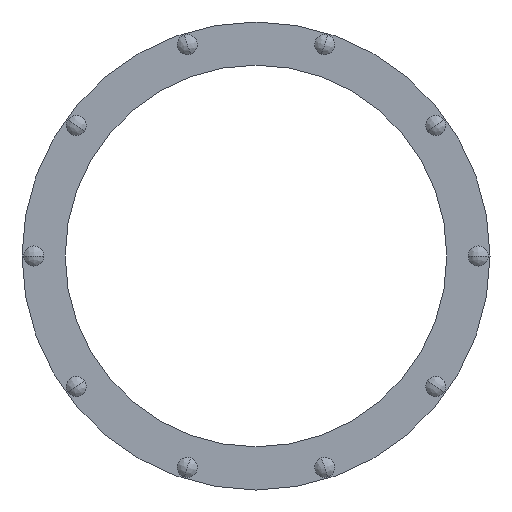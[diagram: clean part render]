
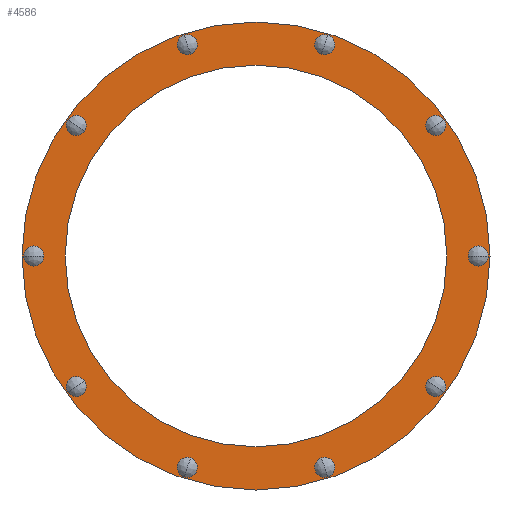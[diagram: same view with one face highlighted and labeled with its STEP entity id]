
A CAD part, front view. The second image highlights one B-rep face of the part: STEP entity #4586.
In plain terms, the highlighted planar face has unit normal (0, -1, 0).
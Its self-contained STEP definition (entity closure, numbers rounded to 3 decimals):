
#1613=CARTESIAN_POINT('',(0.,-151.,0.));
#1614=DIRECTION('',(0.,-1.,0.));
#1615=DIRECTION('',(-1.,0.,0.));
#1616=AXIS2_PLACEMENT_3D('',#1613,#1614,#1615);
#1622=CARTESIAN_POINT('',(0.,-151.,0.));
#1623=DIRECTION('',(0.,1.,0.));
#1624=DIRECTION('',(-1.,0.,0.));
#1625=AXIS2_PLACEMENT_3D('',#1622,#1623,#1624);
#1631=CARTESIAN_POINT('',(0.,-151.,0.));
#1632=DIRECTION('',(0.,-1.,0.));
#1633=DIRECTION('',(-1.,0.,0.));
#1634=AXIS2_PLACEMENT_3D('',#1631,#1632,#1633);
#1636=CARTESIAN_POINT('',(0.,-151.,0.));
#1637=DIRECTION('',(0.,1.,0.));
#1638=DIRECTION('',(-1.,0.,0.));
#1639=AXIS2_PLACEMENT_3D('',#1636,#1637,#1638);
#1641=CARTESIAN_POINT('',(-283.,-151.,0.));
#1642=DIRECTION('',(0.,1.,0.));
#1643=DIRECTION('',(-1.,0.,0.));
#1644=AXIS2_PLACEMENT_3D('',#1641,#1642,#1643);
#1646=CARTESIAN_POINT('',(-283.,-151.,0.));
#1647=DIRECTION('',(0.,1.,0.));
#1648=DIRECTION('',(1.,0.,0.));
#1649=AXIS2_PLACEMENT_3D('',#1646,#1647,#1648);
#1651=CARTESIAN_POINT('',(-228.952,-151.,-166.343));
#1652=DIRECTION('',(0.,1.,0.));
#1653=DIRECTION('',(-0.809,0.,-0.588));
#1654=AXIS2_PLACEMENT_3D('',#1651,#1652,#1653);
#1656=CARTESIAN_POINT('',(-228.952,-151.,-166.343));
#1657=DIRECTION('',(0.,1.,0.));
#1658=DIRECTION('',(0.809,0.,0.588));
#1659=AXIS2_PLACEMENT_3D('',#1656,#1657,#1658);
#1661=CARTESIAN_POINT('',(-87.452,-151.,-269.149));
#1662=DIRECTION('',(0.,1.,0.));
#1663=DIRECTION('',(-0.309,0.,-0.951));
#1664=AXIS2_PLACEMENT_3D('',#1661,#1662,#1663);
#1666=CARTESIAN_POINT('',(-87.452,-151.,-269.149));
#1667=DIRECTION('',(0.,1.,0.));
#1668=DIRECTION('',(0.309,0.,0.951));
#1669=AXIS2_PLACEMENT_3D('',#1666,#1667,#1668);
#1671=CARTESIAN_POINT('',(87.452,-151.,-269.149));
#1672=DIRECTION('',(0.,1.,0.));
#1673=DIRECTION('',(0.309,0.,-0.951));
#1674=AXIS2_PLACEMENT_3D('',#1671,#1672,#1673);
#1676=CARTESIAN_POINT('',(87.452,-151.,-269.149));
#1677=DIRECTION('',(0.,1.,0.));
#1678=DIRECTION('',(-0.309,0.,0.951));
#1679=AXIS2_PLACEMENT_3D('',#1676,#1677,#1678);
#1681=CARTESIAN_POINT('',(228.952,-151.,-166.343));
#1682=DIRECTION('',(0.,1.,0.));
#1683=DIRECTION('',(0.809,0.,-0.588));
#1684=AXIS2_PLACEMENT_3D('',#1681,#1682,#1683);
#1686=CARTESIAN_POINT('',(228.952,-151.,-166.343));
#1687=DIRECTION('',(0.,1.,0.));
#1688=DIRECTION('',(-0.809,0.,0.588));
#1689=AXIS2_PLACEMENT_3D('',#1686,#1687,#1688);
#1691=CARTESIAN_POINT('',(283.,-151.,0.));
#1692=DIRECTION('',(0.,1.,0.));
#1693=DIRECTION('',(1.,0.,0.));
#1694=AXIS2_PLACEMENT_3D('',#1691,#1692,#1693);
#1696=CARTESIAN_POINT('',(283.,-151.,0.));
#1697=DIRECTION('',(0.,1.,0.));
#1698=DIRECTION('',(-1.,0.,0.));
#1699=AXIS2_PLACEMENT_3D('',#1696,#1697,#1698);
#1701=CARTESIAN_POINT('',(228.952,-151.,166.343));
#1702=DIRECTION('',(0.,1.,0.));
#1703=DIRECTION('',(0.809,0.,0.588));
#1704=AXIS2_PLACEMENT_3D('',#1701,#1702,#1703);
#1706=CARTESIAN_POINT('',(228.952,-151.,166.343));
#1707=DIRECTION('',(0.,1.,0.));
#1708=DIRECTION('',(-0.809,0.,-0.588));
#1709=AXIS2_PLACEMENT_3D('',#1706,#1707,#1708);
#1711=CARTESIAN_POINT('',(87.452,-151.,269.149));
#1712=DIRECTION('',(0.,1.,0.));
#1713=DIRECTION('',(0.309,0.,0.951));
#1714=AXIS2_PLACEMENT_3D('',#1711,#1712,#1713);
#1716=CARTESIAN_POINT('',(87.452,-151.,269.149));
#1717=DIRECTION('',(0.,1.,0.));
#1718=DIRECTION('',(-0.309,0.,-0.951));
#1719=AXIS2_PLACEMENT_3D('',#1716,#1717,#1718);
#1721=CARTESIAN_POINT('',(-87.452,-151.,269.149));
#1722=DIRECTION('',(0.,1.,0.));
#1723=DIRECTION('',(-0.309,0.,0.951));
#1724=AXIS2_PLACEMENT_3D('',#1721,#1722,#1723);
#1726=CARTESIAN_POINT('',(-87.452,-151.,269.149));
#1727=DIRECTION('',(0.,1.,0.));
#1728=DIRECTION('',(0.309,0.,-0.951));
#1729=AXIS2_PLACEMENT_3D('',#1726,#1727,#1728);
#1731=CARTESIAN_POINT('',(-228.952,-151.,166.343));
#1732=DIRECTION('',(0.,1.,0.));
#1733=DIRECTION('',(-0.809,0.,0.588));
#1734=AXIS2_PLACEMENT_3D('',#1731,#1732,#1733);
#1736=CARTESIAN_POINT('',(-228.952,-151.,166.343));
#1737=DIRECTION('',(0.,1.,0.));
#1738=DIRECTION('',(0.809,0.,-0.588));
#1739=AXIS2_PLACEMENT_3D('',#1736,#1737,#1738);
#3239=CARTESIAN_POINT('',(-298.,-151.,0.));
#3241=VERTEX_POINT('',#3239);
#3242=CARTESIAN_POINT('',(-243.,-151.,0.));
#3244=VERTEX_POINT('',#3242);
#3257=CARTESIAN_POINT('',(298.,-151.,0.));
#3259=VERTEX_POINT('',#3257);
#3260=CARTESIAN_POINT('',(243.,-151.,0.));
#3262=VERTEX_POINT('',#3260);
#3330=CARTESIAN_POINT('',(-295.75,-151.,0.));
#3331=VERTEX_POINT('',#3330);
#3332=CARTESIAN_POINT('',(-270.25,-151.,0.));
#3333=VERTEX_POINT('',#3332);
#3372=CARTESIAN_POINT('',(-239.267,-151.,-173.837));
#3373=VERTEX_POINT('',#3372);
#3374=CARTESIAN_POINT('',(-218.637,-151.,-158.849));
#3375=VERTEX_POINT('',#3374);
#3414=CARTESIAN_POINT('',(-91.392,-151.,-281.275));
#3415=VERTEX_POINT('',#3414);
#3416=CARTESIAN_POINT('',(-83.512,-151.,-257.023));
#3417=VERTEX_POINT('',#3416);
#3456=CARTESIAN_POINT('',(91.392,-151.,-281.275));
#3457=VERTEX_POINT('',#3456);
#3458=CARTESIAN_POINT('',(83.512,-151.,-257.023));
#3459=VERTEX_POINT('',#3458);
#3498=CARTESIAN_POINT('',(239.267,-151.,-173.837));
#3499=VERTEX_POINT('',#3498);
#3500=CARTESIAN_POINT('',(218.637,-151.,-158.849));
#3501=VERTEX_POINT('',#3500);
#3540=CARTESIAN_POINT('',(295.75,-151.,0.));
#3541=VERTEX_POINT('',#3540);
#3542=CARTESIAN_POINT('',(270.25,-151.,0.));
#3543=VERTEX_POINT('',#3542);
#3602=CARTESIAN_POINT('',(239.267,-151.,173.837));
#3603=VERTEX_POINT('',#3602);
#3604=CARTESIAN_POINT('',(218.637,-151.,158.849));
#3605=VERTEX_POINT('',#3604);
#3644=CARTESIAN_POINT('',(91.392,-151.,281.275));
#3645=VERTEX_POINT('',#3644);
#3646=CARTESIAN_POINT('',(83.512,-151.,257.023));
#3647=VERTEX_POINT('',#3646);
#3686=CARTESIAN_POINT('',(-91.392,-151.,281.275));
#3687=VERTEX_POINT('',#3686);
#3688=CARTESIAN_POINT('',(-83.512,-151.,257.023));
#3689=VERTEX_POINT('',#3688);
#3728=CARTESIAN_POINT('',(-239.267,-151.,173.837));
#3729=VERTEX_POINT('',#3728);
#3730=CARTESIAN_POINT('',(-218.637,-151.,158.849));
#3731=VERTEX_POINT('',#3730);
#4511=CARTESIAN_POINT('',(0.,-151.,0.));
#4512=DIRECTION('',(0.,-1.,0.));
#4513=DIRECTION('',(-1.,0.,0.));
#4514=AXIS2_PLACEMENT_3D('',#4511,#4512,#4513);
#4515=PLANE('',#4514);
#4517=ORIENTED_EDGE('',*,*,#4516,.F.);
#4519=ORIENTED_EDGE('',*,*,#4518,.T.);
#4520=EDGE_LOOP('',(#4517,#4519));
#4521=FACE_OUTER_BOUND('',#4520,.F.);
#4522=ORIENTED_EDGE('',*,*,#4504,.F.);
#4523=ORIENTED_EDGE('',*,*,#4493,.T.);
#4524=EDGE_LOOP('',(#4522,#4523));
#4525=FACE_BOUND('',#4524,.F.);
#4527=ORIENTED_EDGE('',*,*,#4526,.F.);
#4529=ORIENTED_EDGE('',*,*,#4528,.F.);
#4530=EDGE_LOOP('',(#4527,#4529));
#4531=FACE_BOUND('',#4530,.F.);
#4533=ORIENTED_EDGE('',*,*,#4532,.F.);
#4535=ORIENTED_EDGE('',*,*,#4534,.F.);
#4536=EDGE_LOOP('',(#4533,#4535));
#4537=FACE_BOUND('',#4536,.F.);
#4539=ORIENTED_EDGE('',*,*,#4538,.F.);
#4541=ORIENTED_EDGE('',*,*,#4540,.F.);
#4542=EDGE_LOOP('',(#4539,#4541));
#4543=FACE_BOUND('',#4542,.F.);
#4545=ORIENTED_EDGE('',*,*,#4544,.F.);
#4547=ORIENTED_EDGE('',*,*,#4546,.F.);
#4548=EDGE_LOOP('',(#4545,#4547));
#4549=FACE_BOUND('',#4548,.F.);
#4551=ORIENTED_EDGE('',*,*,#4550,.F.);
#4553=ORIENTED_EDGE('',*,*,#4552,.F.);
#4554=EDGE_LOOP('',(#4551,#4553));
#4555=FACE_BOUND('',#4554,.F.);
#4557=ORIENTED_EDGE('',*,*,#4556,.F.);
#4559=ORIENTED_EDGE('',*,*,#4558,.F.);
#4560=EDGE_LOOP('',(#4557,#4559));
#4561=FACE_BOUND('',#4560,.F.);
#4563=ORIENTED_EDGE('',*,*,#4562,.F.);
#4565=ORIENTED_EDGE('',*,*,#4564,.F.);
#4566=EDGE_LOOP('',(#4563,#4565));
#4567=FACE_BOUND('',#4566,.F.);
#4569=ORIENTED_EDGE('',*,*,#4568,.F.);
#4571=ORIENTED_EDGE('',*,*,#4570,.F.);
#4572=EDGE_LOOP('',(#4569,#4571));
#4573=FACE_BOUND('',#4572,.F.);
#4575=ORIENTED_EDGE('',*,*,#4574,.F.);
#4577=ORIENTED_EDGE('',*,*,#4576,.F.);
#4578=EDGE_LOOP('',(#4575,#4577));
#4579=FACE_BOUND('',#4578,.F.);
#4581=ORIENTED_EDGE('',*,*,#4580,.F.);
#4583=ORIENTED_EDGE('',*,*,#4582,.F.);
#4584=EDGE_LOOP('',(#4581,#4583));
#4585=FACE_BOUND('',#4584,.F.);
#4586=ADVANCED_FACE('',(#4521,#4525,#4531,#4537,#4543,#4549,#4555,#4561,#4567,
#4573,#4579,#4585),#4515,.T.);
#1617=CIRCLE('',#1616,243.);
#1626=CIRCLE('',#1625,243.);
#1635=CIRCLE('',#1634,298.);
#1640=CIRCLE('',#1639,298.);
#1645=CIRCLE('',#1644,12.75);
#1650=CIRCLE('',#1649,12.75);
#1655=CIRCLE('',#1654,12.75);
#1660=CIRCLE('',#1659,12.75);
#1665=CIRCLE('',#1664,12.75);
#1670=CIRCLE('',#1669,12.75);
#1675=CIRCLE('',#1674,12.75);
#1680=CIRCLE('',#1679,12.75);
#1685=CIRCLE('',#1684,12.75);
#1690=CIRCLE('',#1689,12.75);
#1695=CIRCLE('',#1694,12.75);
#1700=CIRCLE('',#1699,12.75);
#1705=CIRCLE('',#1704,12.75);
#1710=CIRCLE('',#1709,12.75);
#1715=CIRCLE('',#1714,12.75);
#1720=CIRCLE('',#1719,12.75);
#1725=CIRCLE('',#1724,12.75);
#1730=CIRCLE('',#1729,12.75);
#1735=CIRCLE('',#1734,12.75);
#1740=CIRCLE('',#1739,12.75);
#4493=EDGE_CURVE('',#3244,#3262,#1617,.T.);
#4504=EDGE_CURVE('',#3244,#3262,#1626,.T.);
#4516=EDGE_CURVE('',#3241,#3259,#1635,.T.);
#4518=EDGE_CURVE('',#3241,#3259,#1640,.T.);
#4526=EDGE_CURVE('',#3331,#3333,#1645,.T.);
#4528=EDGE_CURVE('',#3333,#3331,#1650,.T.);
#4532=EDGE_CURVE('',#3373,#3375,#1655,.T.);
#4534=EDGE_CURVE('',#3375,#3373,#1660,.T.);
#4538=EDGE_CURVE('',#3415,#3417,#1665,.T.);
#4540=EDGE_CURVE('',#3417,#3415,#1670,.T.);
#4544=EDGE_CURVE('',#3457,#3459,#1675,.T.);
#4546=EDGE_CURVE('',#3459,#3457,#1680,.T.);
#4550=EDGE_CURVE('',#3499,#3501,#1685,.T.);
#4552=EDGE_CURVE('',#3501,#3499,#1690,.T.);
#4556=EDGE_CURVE('',#3541,#3543,#1695,.T.);
#4558=EDGE_CURVE('',#3543,#3541,#1700,.T.);
#4562=EDGE_CURVE('',#3603,#3605,#1705,.T.);
#4564=EDGE_CURVE('',#3605,#3603,#1710,.T.);
#4568=EDGE_CURVE('',#3645,#3647,#1715,.T.);
#4570=EDGE_CURVE('',#3647,#3645,#1720,.T.);
#4574=EDGE_CURVE('',#3687,#3689,#1725,.T.);
#4576=EDGE_CURVE('',#3689,#3687,#1730,.T.);
#4580=EDGE_CURVE('',#3729,#3731,#1735,.T.);
#4582=EDGE_CURVE('',#3731,#3729,#1740,.T.);
